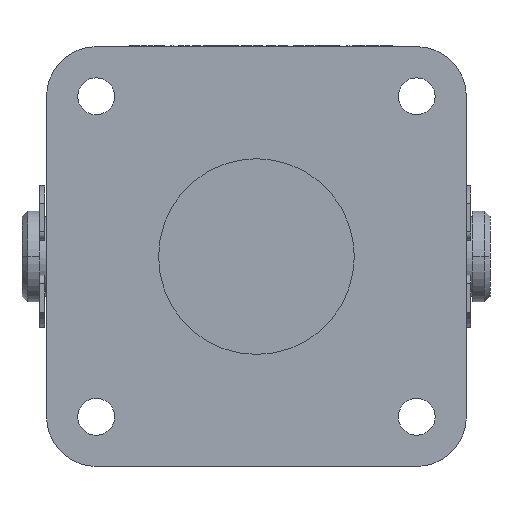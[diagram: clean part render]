
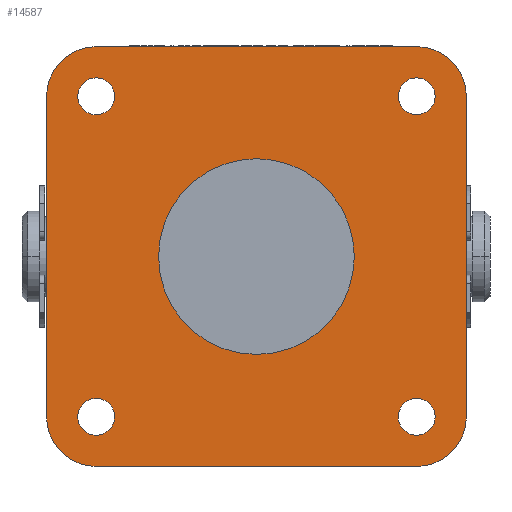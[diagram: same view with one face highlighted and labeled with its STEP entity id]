
A CAD part, left-side view. The second image highlights one B-rep face of the part: STEP entity #14587.
In plain terms, the highlighted planar face has unit normal (-1, 0, 0).
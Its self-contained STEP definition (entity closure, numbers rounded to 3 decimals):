
#14360=CARTESIAN_POINT('Vertex',(-9.,37.,-28.25)) ;
#14363=CARTESIAN_POINT('Line Origine',(-9.,37.,0.)) ;
#14367=CARTESIAN_POINT('Vertex',(-9.,37.,28.25)) ;
#14435=CARTESIAN_POINT('Axis2P3D Location',(-9.,0.,0.)) ;
#14440=CARTESIAN_POINT('Line Origine',(-9.,0.,37.)) ;
#14444=CARTESIAN_POINT('Vertex',(-9.,28.25,37.)) ;
#14446=CARTESIAN_POINT('Vertex',(-9.,-28.25,37.)) ;
#14449=CARTESIAN_POINT('Axis2P3D Location',(-9.,28.25,28.25)) ;
#14454=CARTESIAN_POINT('Axis2P3D Location',(-9.,28.25,-28.25)) ;
#14458=CARTESIAN_POINT('Vertex',(-9.,28.25,-37.)) ;
#14461=CARTESIAN_POINT('Line Origine',(-9.,0.,-37.)) ;
#14465=CARTESIAN_POINT('Vertex',(-9.,-28.25,-37.)) ;
#14468=CARTESIAN_POINT('Axis2P3D Location',(-9.,-28.25,-28.25)) ;
#14472=CARTESIAN_POINT('Vertex',(-9.,-37.,-28.25)) ;
#14475=CARTESIAN_POINT('Line Origine',(-9.,-37.,0.)) ;
#14479=CARTESIAN_POINT('Vertex',(-9.,-37.,28.25)) ;
#14482=CARTESIAN_POINT('Axis2P3D Location',(-9.,-28.25,28.25)) ;
#14497=CARTESIAN_POINT('Axis2P3D Location',(-9.,0.,0.)) ;
#14501=CARTESIAN_POINT('Vertex',(-9.,17.25,0.)) ;
#14503=CARTESIAN_POINT('Vertex',(-9.,-17.25,0.)) ;
#14506=CARTESIAN_POINT('Axis2P3D Location',(-9.,0.,0.)) ;
#14515=CARTESIAN_POINT('Axis2P3D Location',(-9.,-28.25,28.25)) ;
#14519=CARTESIAN_POINT('Vertex',(-9.,-25.,28.25)) ;
#14521=CARTESIAN_POINT('Vertex',(-9.,-31.5,28.25)) ;
#14524=CARTESIAN_POINT('Axis2P3D Location',(-9.,-28.25,28.25)) ;
#14533=CARTESIAN_POINT('Axis2P3D Location',(-9.,-28.25,-28.25)) ;
#14537=CARTESIAN_POINT('Vertex',(-9.,-25.,-28.25)) ;
#14539=CARTESIAN_POINT('Vertex',(-9.,-31.5,-28.25)) ;
#14542=CARTESIAN_POINT('Axis2P3D Location',(-9.,-28.25,-28.25)) ;
#14551=CARTESIAN_POINT('Axis2P3D Location',(-9.,28.25,-28.25)) ;
#14555=CARTESIAN_POINT('Vertex',(-9.,25.,-28.25)) ;
#14557=CARTESIAN_POINT('Vertex',(-9.,31.5,-28.25)) ;
#14560=CARTESIAN_POINT('Axis2P3D Location',(-9.,28.25,-28.25)) ;
#14569=CARTESIAN_POINT('Axis2P3D Location',(-9.,28.25,28.25)) ;
#14573=CARTESIAN_POINT('Vertex',(-9.,25.,28.25)) ;
#14575=CARTESIAN_POINT('Vertex',(-9.,31.5,28.25)) ;
#14578=CARTESIAN_POINT('Axis2P3D Location',(-9.,28.25,28.25)) ;
#14364=DIRECTION('Vector Direction',(0.,0.,1.)) ;
#14436=DIRECTION('Axis2P3D Direction',(1.,0.,0.)) ;
#14437=DIRECTION('Axis2P3D XDirection',(0.,1.,0.)) ;
#14441=DIRECTION('Vector Direction',(0.,1.,0.)) ;
#14450=DIRECTION('Axis2P3D Direction',(1.,0.,0.)) ;
#14455=DIRECTION('Axis2P3D Direction',(1.,0.,0.)) ;
#14462=DIRECTION('Vector Direction',(0.,-1.,0.)) ;
#14469=DIRECTION('Axis2P3D Direction',(1.,0.,0.)) ;
#14476=DIRECTION('Vector Direction',(0.,0.,-1.)) ;
#14483=DIRECTION('Axis2P3D Direction',(1.,0.,0.)) ;
#14498=DIRECTION('Axis2P3D Direction',(1.,0.,0.)) ;
#14507=DIRECTION('Axis2P3D Direction',(1.,0.,0.)) ;
#14516=DIRECTION('Axis2P3D Direction',(1.,0.,0.)) ;
#14525=DIRECTION('Axis2P3D Direction',(1.,0.,0.)) ;
#14534=DIRECTION('Axis2P3D Direction',(1.,0.,0.)) ;
#14543=DIRECTION('Axis2P3D Direction',(1.,0.,0.)) ;
#14552=DIRECTION('Axis2P3D Direction',(1.,0.,0.)) ;
#14561=DIRECTION('Axis2P3D Direction',(1.,0.,0.)) ;
#14570=DIRECTION('Axis2P3D Direction',(1.,0.,0.)) ;
#14579=DIRECTION('Axis2P3D Direction',(1.,0.,0.)) ;
#14438=AXIS2_PLACEMENT_3D('Plane Axis2P3D',#14435,#14436,#14437) ;
#14451=AXIS2_PLACEMENT_3D('Circle Axis2P3D',#14449,#14450,$) ;
#14456=AXIS2_PLACEMENT_3D('Circle Axis2P3D',#14454,#14455,$) ;
#14470=AXIS2_PLACEMENT_3D('Circle Axis2P3D',#14468,#14469,$) ;
#14484=AXIS2_PLACEMENT_3D('Circle Axis2P3D',#14482,#14483,$) ;
#14499=AXIS2_PLACEMENT_3D('Circle Axis2P3D',#14497,#14498,$) ;
#14508=AXIS2_PLACEMENT_3D('Circle Axis2P3D',#14506,#14507,$) ;
#14517=AXIS2_PLACEMENT_3D('Circle Axis2P3D',#14515,#14516,$) ;
#14526=AXIS2_PLACEMENT_3D('Circle Axis2P3D',#14524,#14525,$) ;
#14535=AXIS2_PLACEMENT_3D('Circle Axis2P3D',#14533,#14534,$) ;
#14544=AXIS2_PLACEMENT_3D('Circle Axis2P3D',#14542,#14543,$) ;
#14553=AXIS2_PLACEMENT_3D('Circle Axis2P3D',#14551,#14552,$) ;
#14562=AXIS2_PLACEMENT_3D('Circle Axis2P3D',#14560,#14561,$) ;
#14571=AXIS2_PLACEMENT_3D('Circle Axis2P3D',#14569,#14570,$) ;
#14580=AXIS2_PLACEMENT_3D('Circle Axis2P3D',#14578,#14579,$) ;
#14488=ORIENTED_EDGE('',*,*,#14448,.F.) ;
#14489=ORIENTED_EDGE('',*,*,#14453,.F.) ;
#14490=ORIENTED_EDGE('',*,*,#14369,.F.) ;
#14491=ORIENTED_EDGE('',*,*,#14460,.F.) ;
#14492=ORIENTED_EDGE('',*,*,#14467,.F.) ;
#14493=ORIENTED_EDGE('',*,*,#14474,.F.) ;
#14494=ORIENTED_EDGE('',*,*,#14481,.F.) ;
#14495=ORIENTED_EDGE('',*,*,#14486,.F.) ;
#14512=ORIENTED_EDGE('',*,*,#14505,.F.) ;
#14513=ORIENTED_EDGE('',*,*,#14510,.F.) ;
#14530=ORIENTED_EDGE('',*,*,#14523,.T.) ;
#14531=ORIENTED_EDGE('',*,*,#14528,.T.) ;
#14548=ORIENTED_EDGE('',*,*,#14541,.T.) ;
#14549=ORIENTED_EDGE('',*,*,#14546,.T.) ;
#14566=ORIENTED_EDGE('',*,*,#14559,.T.) ;
#14567=ORIENTED_EDGE('',*,*,#14564,.T.) ;
#14584=ORIENTED_EDGE('',*,*,#14577,.T.) ;
#14585=ORIENTED_EDGE('',*,*,#14582,.T.) ;
#14514=FACE_BOUND('',#14511,.T.) ;
#14532=FACE_BOUND('',#14529,.T.) ;
#14550=FACE_BOUND('',#14547,.T.) ;
#14568=FACE_BOUND('',#14565,.T.) ;
#14586=FACE_BOUND('',#14583,.T.) ;
#14365=VECTOR('Line Direction',#14364,1.) ;
#14442=VECTOR('Line Direction',#14441,1.) ;
#14463=VECTOR('Line Direction',#14462,1.) ;
#14477=VECTOR('Line Direction',#14476,1.) ;
#14587=ADVANCED_FACE('PartBody',(#14496,#14514,#14532,#14550,#14568,#14586),#14439,.F.) ;
#14452=CIRCLE('generated circle',#14451,8.75) ;
#14457=CIRCLE('generated circle',#14456,8.75) ;
#14471=CIRCLE('generated circle',#14470,8.75) ;
#14485=CIRCLE('generated circle',#14484,8.75) ;
#14500=CIRCLE('generated circle',#14499,17.25) ;
#14509=CIRCLE('generated circle',#14508,17.25) ;
#14518=CIRCLE('generated circle',#14517,3.25) ;
#14527=CIRCLE('generated circle',#14526,3.25) ;
#14536=CIRCLE('generated circle',#14535,3.25) ;
#14545=CIRCLE('generated circle',#14544,3.25) ;
#14554=CIRCLE('generated circle',#14553,3.25) ;
#14563=CIRCLE('generated circle',#14562,3.25) ;
#14572=CIRCLE('generated circle',#14571,3.25) ;
#14581=CIRCLE('generated circle',#14580,3.25) ;
#14369=EDGE_CURVE('',#14361,#14368,#14366,.T.) ;
#14448=EDGE_CURVE('',#14445,#14447,#14443,.F.) ;
#14453=EDGE_CURVE('',#14368,#14445,#14452,.T.) ;
#14460=EDGE_CURVE('',#14459,#14361,#14457,.T.) ;
#14467=EDGE_CURVE('',#14466,#14459,#14464,.F.) ;
#14474=EDGE_CURVE('',#14473,#14466,#14471,.T.) ;
#14481=EDGE_CURVE('',#14480,#14473,#14478,.T.) ;
#14486=EDGE_CURVE('',#14447,#14480,#14485,.T.) ;
#14505=EDGE_CURVE('',#14502,#14504,#14500,.F.) ;
#14510=EDGE_CURVE('',#14504,#14502,#14509,.F.) ;
#14523=EDGE_CURVE('',#14520,#14522,#14518,.T.) ;
#14528=EDGE_CURVE('',#14522,#14520,#14527,.T.) ;
#14541=EDGE_CURVE('',#14538,#14540,#14536,.T.) ;
#14546=EDGE_CURVE('',#14540,#14538,#14545,.T.) ;
#14559=EDGE_CURVE('',#14556,#14558,#14554,.T.) ;
#14564=EDGE_CURVE('',#14558,#14556,#14563,.T.) ;
#14577=EDGE_CURVE('',#14574,#14576,#14572,.T.) ;
#14582=EDGE_CURVE('',#14576,#14574,#14581,.T.) ;
#14487=EDGE_LOOP('',(#14488,#14489,#14490,#14491,#14492,#14493,#14494,#14495)) ;
#14511=EDGE_LOOP('',(#14512,#14513)) ;
#14529=EDGE_LOOP('',(#14530,#14531)) ;
#14547=EDGE_LOOP('',(#14548,#14549)) ;
#14565=EDGE_LOOP('',(#14566,#14567)) ;
#14583=EDGE_LOOP('',(#14584,#14585)) ;
#14496=FACE_OUTER_BOUND('',#14487,.T.) ;
#14366=LINE('Line',#14363,#14365) ;
#14443=LINE('Line',#14440,#14442) ;
#14464=LINE('Line',#14461,#14463) ;
#14478=LINE('Line',#14475,#14477) ;
#14439=PLANE('',#14438) ;
#14361=VERTEX_POINT('',#14360) ;
#14368=VERTEX_POINT('',#14367) ;
#14445=VERTEX_POINT('',#14444) ;
#14447=VERTEX_POINT('',#14446) ;
#14459=VERTEX_POINT('',#14458) ;
#14466=VERTEX_POINT('',#14465) ;
#14473=VERTEX_POINT('',#14472) ;
#14480=VERTEX_POINT('',#14479) ;
#14502=VERTEX_POINT('',#14501) ;
#14504=VERTEX_POINT('',#14503) ;
#14520=VERTEX_POINT('',#14519) ;
#14522=VERTEX_POINT('',#14521) ;
#14538=VERTEX_POINT('',#14537) ;
#14540=VERTEX_POINT('',#14539) ;
#14556=VERTEX_POINT('',#14555) ;
#14558=VERTEX_POINT('',#14557) ;
#14574=VERTEX_POINT('',#14573) ;
#14576=VERTEX_POINT('',#14575) ;
